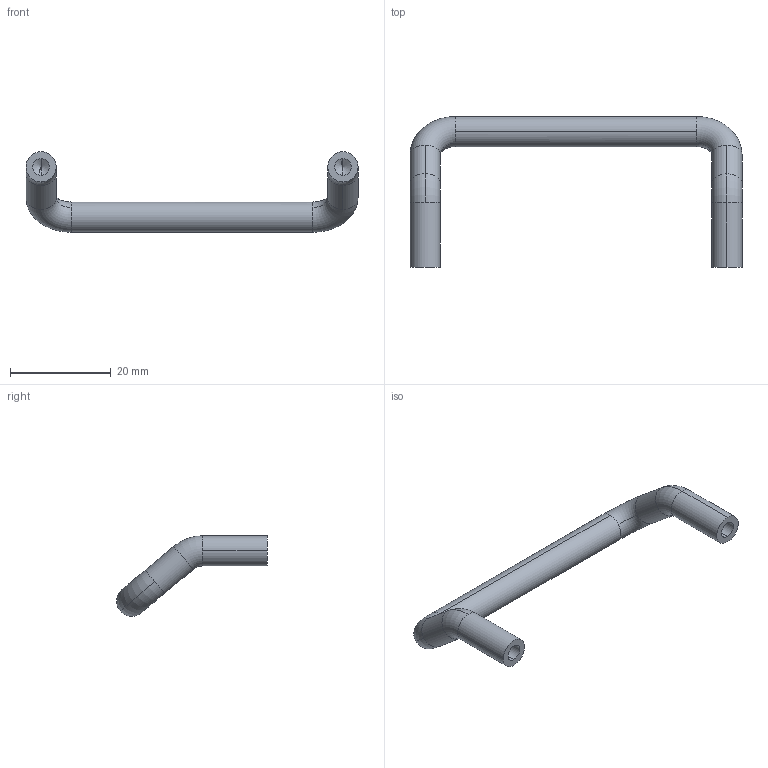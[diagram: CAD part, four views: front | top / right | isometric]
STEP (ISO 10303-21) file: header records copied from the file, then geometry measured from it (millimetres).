
FILE_DESCRIPTION (( 'STEP AP203' ), '1' );
FILE_NAME ('E07-53060.STEP', '2025-01-06T08:04:33', ( '' ), ( '' ), 'SwSTEP 2.0', 'SolidWorks 2021', '' );
FILE_SCHEMA (( 'CONFIG_CONTROL_DESIGN' ));
Length unit declared in the file: millimetre
Products named in the file (1): E07-53060
Bounding box: 66 x 30 x 16 mm (x, y, z)
Volume: 3093.4 mm3; surface area: 2449.4 mm2
Topology: 1 solids, 1 shells, 28 faces, 70 edges, 42 vertices
Faces by surface type: cylinder 14, torus 8, cone 4, plane 2
Entity records: 907 total; most frequent: DIRECTION 172, CARTESIAN_POINT 137, ORIENTED_EDGE 132, AXIS2_PLACEMENT_3D 77, EDGE_CURVE 66, CIRCLE 48, VERTEX_POINT 42, EDGE_LOOP 30
